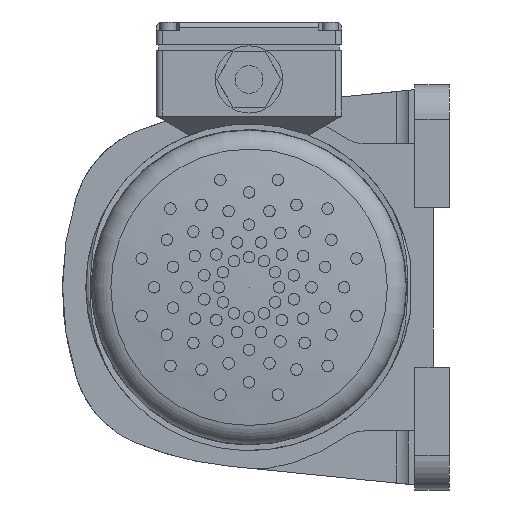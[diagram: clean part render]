
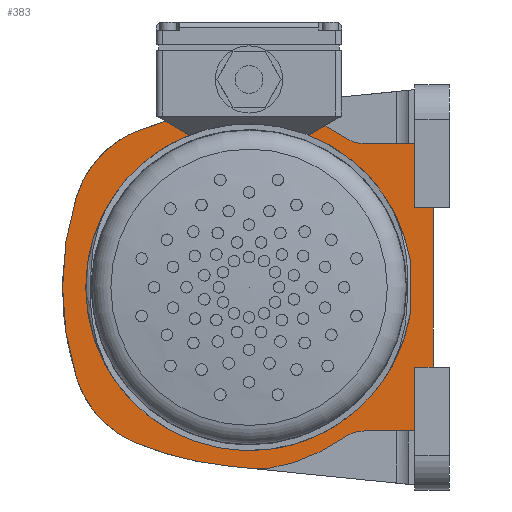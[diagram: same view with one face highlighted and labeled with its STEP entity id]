
A CAD part, left-side view. The second image highlights one B-rep face of the part: STEP entity #383.
In plain terms, the highlighted planar face has unit normal (-1, 0, 0).
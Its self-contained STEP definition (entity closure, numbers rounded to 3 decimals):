
#383 = ADVANCED_FACE( '', ( #1137 ), #1138, .F. );
#1137 = FACE_OUTER_BOUND( '', #2685, .T. );
#1138 = PLANE( '', #2686 );
#2685 = EDGE_LOOP( '', ( #4653, #4654, #4655, #4656, #4657, #4658, #4659, #4660, #4661, #4662, #4663, #4664, #4665, #4666, #4667, #4668, #4669, #4670, #4671, #4672 ) );
#2686 = AXIS2_PLACEMENT_3D( '', #4673, #4674, #4675 );
#4653 = ORIENTED_EDGE( '', *, *, #9284, .F. );
#4654 = ORIENTED_EDGE( '', *, *, #9243, .T. );
#4655 = ORIENTED_EDGE( '', *, *, #9233, .T. );
#4656 = ORIENTED_EDGE( '', *, *, #9285, .F. );
#4657 = ORIENTED_EDGE( '', *, *, #9286, .T. );
#4658 = ORIENTED_EDGE( '', *, *, #9287, .F. );
#4659 = ORIENTED_EDGE( '', *, *, #9288, .F. );
#4660 = ORIENTED_EDGE( '', *, *, #9080, .F. );
#4661 = ORIENTED_EDGE( '', *, *, #9076, .T. );
#4662 = ORIENTED_EDGE( '', *, *, #9074, .T. );
#4663 = ORIENTED_EDGE( '', *, *, #9289, .T. );
#4664 = ORIENTED_EDGE( '', *, *, #9290, .T. );
#4665 = ORIENTED_EDGE( '', *, *, #9291, .T. );
#4666 = ORIENTED_EDGE( '', *, *, #9292, .F. );
#4667 = ORIENTED_EDGE( '', *, *, #9293, .F. );
#4668 = ORIENTED_EDGE( '', *, *, #9294, .F. );
#4669 = ORIENTED_EDGE( '', *, *, #9295, .T. );
#4670 = ORIENTED_EDGE( '', *, *, #9296, .F. );
#4671 = ORIENTED_EDGE( '', *, *, #9271, .T. );
#4672 = ORIENTED_EDGE( '', *, *, #9280, .T. );
#4673 = CARTESIAN_POINT( '', ( -97.5, 8.05, 25.879 ) );
#4674 = DIRECTION( '', ( 1., 0., 0. ) );
#4675 = DIRECTION( '', ( 0., 0., -1. ) );
#9074 = EDGE_CURVE( '', #10586, #10584, #10587, .F. );
#9076 = EDGE_CURVE( '', #10589, #10586, #10590, .F. );
#9080 = EDGE_CURVE( '', #10589, #10596, #10597, .T. );
#9233 = EDGE_CURVE( '', #10868, #10866, #10869, .T. );
#9243 = EDGE_CURVE( '', #10886, #10868, #10887, .T. );
#9271 = EDGE_CURVE( '', #10934, #10932, #10935, .T. );
#9280 = EDGE_CURVE( '', #10932, #10947, #10948, .T. );
#9284 = EDGE_CURVE( '', #10886, #10947, #10952, .T. );
#9285 = EDGE_CURVE( '', #10953, #10866, #10954, .T. );
#9286 = EDGE_CURVE( '', #10953, #10955, #10956, .T. );
#9287 = EDGE_CURVE( '', #10957, #10955, #10958, .T. );
#9288 = EDGE_CURVE( '', #10596, #10957, #10959, .T. );
#9289 = EDGE_CURVE( '', #10584, #10960, #10961, .F. );
#9290 = EDGE_CURVE( '', #10960, #10962, #10963, .F. );
#9291 = EDGE_CURVE( '', #10962, #10964, #10965, .F. );
#9292 = EDGE_CURVE( '', #10966, #10964, #10967, .T. );
#9293 = EDGE_CURVE( '', #10968, #10966, #10969, .T. );
#9294 = EDGE_CURVE( '', #10970, #10968, #10971, .T. );
#9295 = EDGE_CURVE( '', #10970, #10972, #10973, .T. );
#9296 = EDGE_CURVE( '', #10934, #10972, #10974, .T. );
#10584 = VERTEX_POINT( '', #13273 );
#10586 = VERTEX_POINT( '', #13276 );
#10587 = CIRCLE( '', #13277, 45. );
#10589 = VERTEX_POINT( '', #13280 );
#10590 = CIRCLE( '', #13281, 148. );
#10596 = VERTEX_POINT( '', #13289 );
#10597 = LINE( '', #13290, #13291 );
#10866 = VERTEX_POINT( '', #13730 );
#10868 = VERTEX_POINT( '', #13733 );
#10869 = LINE( '', #13734, #13735 );
#10886 = VERTEX_POINT( '', #13759 );
#10887 = LINE( '', #13760, #13761 );
#10932 = VERTEX_POINT( '', #13824 );
#10934 = VERTEX_POINT( '', #13827 );
#10935 = LINE( '', #13828, #13829 );
#10947 = VERTEX_POINT( '', #13849 );
#10948 = LINE( '', #13850, #13851 );
#10952 = LINE( '', #13858, #13859 );
#10953 = VERTEX_POINT( '', #13860 );
#10954 = LINE( '', #13861, #13862 );
#10955 = VERTEX_POINT( '', #13863 );
#10956 = CIRCLE( '', #13864, 15. );
#10957 = VERTEX_POINT( '', #13865 );
#10958 = CIRCLE( '', #13866, 79.395 );
#10959 = CIRCLE( '', #13867, 148.74 );
#10960 = VERTEX_POINT( '', #13868 );
#10961 = CIRCLE( '', #13869, 130. );
#10962 = VERTEX_POINT( '', #13870 );
#10963 = CIRCLE( '', #13871, 45. );
#10964 = VERTEX_POINT( '', #13872 );
#10965 = CIRCLE( '', #13873, 148. );
#10966 = VERTEX_POINT( '', #13874 );
#10967 = LINE( '', #13875, #13876 );
#10968 = VERTEX_POINT( '', #13877 );
#10969 = CIRCLE( '', #13878, 148.74 );
#10970 = VERTEX_POINT( '', #13879 );
#10971 = CIRCLE( '', #13880, 79.395 );
#10972 = VERTEX_POINT( '', #13881 );
#10973 = CIRCLE( '', #13882, 15. );
#10974 = LINE( '', #13883, #13884 );
#13273 = CARTESIAN_POINT( '', ( -97.5, 51.115, 38.671 ) );
#13276 = CARTESIAN_POINT( '', ( -97.5, 26.043, 66.979 ) );
#13277 = AXIS2_PLACEMENT_3D( '', #21545, #21546, #21547 );
#13280 = CARTESIAN_POINT( '', ( -97.5, -15.154, 77.254 ) );
#13281 = AXIS2_PLACEMENT_3D( '', #21549, #21550, #21551 );
#13289 = CARTESIAN_POINT( '', ( -97.5, -25.794, 78.326 ) );
#13290 = CARTESIAN_POINT( '', ( -97.5, 12.944, 74.421 ) );
#13291 = VECTOR( '', #21557, 1000. );
#13730 = CARTESIAN_POINT( '', ( -97.5, -95., 62. ) );
#13733 = CARTESIAN_POINT( '', ( -97.5, -95., 34.5 ) );
#13734 = CARTESIAN_POINT( '', ( -97.5, -95., 25.879 ) );
#13735 = VECTOR( '', #21780, 1000. );
#13759 = CARTESIAN_POINT( '', ( -97.5, -103., 34.5 ) );
#13760 = CARTESIAN_POINT( '', ( -97.5, 8.05, 34.5 ) );
#13761 = VECTOR( '', #21794, 1000. );
#13824 = CARTESIAN_POINT( '', ( -97.5, -95., -34.5 ) );
#13827 = CARTESIAN_POINT( '', ( -97.5, -95., -62. ) );
#13828 = CARTESIAN_POINT( '', ( -97.5, -95., 25.879 ) );
#13829 = VECTOR( '', #21838, 1000. );
#13849 = CARTESIAN_POINT( '', ( -97.5, -103., -34.5 ) );
#13850 = CARTESIAN_POINT( '', ( -97.5, 8.05, -34.5 ) );
#13851 = VECTOR( '', #21847, 1000. );
#13858 = CARTESIAN_POINT( '', ( -97.5, -103., 62. ) );
#13859 = VECTOR( '', #21851, 1000. );
#13860 = CARTESIAN_POINT( '', ( -97.5, -73.195, 62. ) );
#13861 = CARTESIAN_POINT( '', ( -97.5, -73.195, 62. ) );
#13862 = VECTOR( '', #21852, 1000. );
#13863 = CARTESIAN_POINT( '', ( -97.5, -64.518, 64.764 ) );
#13864 = AXIS2_PLACEMENT_3D( '', #21853, #21854, #21855 );
#13865 = CARTESIAN_POINT( '', ( -97.5, -31.209, 78.386 ) );
#13866 = AXIS2_PLACEMENT_3D( '', #21856, #21857, #21858 );
#13867 = AXIS2_PLACEMENT_3D( '', #21859, #21860, #21861 );
#13868 = CARTESIAN_POINT( '', ( -97.5, 51.115, -38.671 ) );
#13869 = AXIS2_PLACEMENT_3D( '', #21862, #21863, #21864 );
#13870 = CARTESIAN_POINT( '', ( -97.5, 26.043, -66.979 ) );
#13871 = AXIS2_PLACEMENT_3D( '', #21865, #21866, #21867 );
#13872 = CARTESIAN_POINT( '', ( -97.5, -15.154, -77.254 ) );
#13873 = AXIS2_PLACEMENT_3D( '', #21868, #21869, #21870 );
#13874 = CARTESIAN_POINT( '', ( -97.5, -25.794, -78.326 ) );
#13875 = CARTESIAN_POINT( '', ( -97.5, 18.11, -73.9 ) );
#13876 = VECTOR( '', #21871, 1000. );
#13877 = CARTESIAN_POINT( '', ( -97.5, -31.209, -78.386 ) );
#13878 = AXIS2_PLACEMENT_3D( '', #21872, #21873, #21874 );
#13879 = CARTESIAN_POINT( '', ( -97.5, -64.518, -64.764 ) );
#13880 = AXIS2_PLACEMENT_3D( '', #21875, #21876, #21877 );
#13881 = CARTESIAN_POINT( '', ( -97.5, -73.195, -62. ) );
#13882 = AXIS2_PLACEMENT_3D( '', #21878, #21879, #21880 );
#13883 = CARTESIAN_POINT( '', ( -97.5, -103., -62. ) );
#13884 = VECTOR( '', #21881, 1000. );
#21545 = CARTESIAN_POINT( '', ( -97.5, 8.01, 25.75 ) );
#21546 = DIRECTION( '', ( 1., 0., 0. ) );
#21547 = DIRECTION( '', ( 0., 0., -1. ) );
#21549 = CARTESIAN_POINT( '', ( -97.5, -30., -70. ) );
#21550 = DIRECTION( '', ( 1., 0., 0. ) );
#21551 = DIRECTION( '', ( 0., 0., -1. ) );
#21557 = DIRECTION( '', ( 0., -0.995, 0.1 ) );
#21780 = DIRECTION( '', ( 0., 0., 1. ) );
#21794 = DIRECTION( '', ( 0., 1., 0. ) );
#21838 = DIRECTION( '', ( 0., 0., 1. ) );
#21847 = DIRECTION( '', ( 0., -1., 0. ) );
#21851 = DIRECTION( '', ( 0., 0., -1. ) );
#21852 = DIRECTION( '', ( 0., -1., 0. ) );
#21853 = CARTESIAN_POINT( '', ( -97.5, -73.195, 77. ) );
#21854 = DIRECTION( '', ( 1., 0., 0. ) );
#21855 = DIRECTION( '', ( 0., 0., -1. ) );
#21856 = CARTESIAN_POINT( '', ( -97.5, -18.593, 0. ) );
#21857 = DIRECTION( '', ( 1., 0., 0. ) );
#21858 = DIRECTION( '', ( 0., 0., -1. ) );
#21859 = CARTESIAN_POINT( '', ( -97.5, -30.15, -70.35 ) );
#21860 = DIRECTION( '', ( 1., 0., 0. ) );
#21861 = DIRECTION( '', ( 0., 0., -1. ) );
#21862 = CARTESIAN_POINT( '', ( -97.5, -73., 0. ) );
#21863 = DIRECTION( '', ( 1., 0., 0. ) );
#21864 = DIRECTION( '', ( 0., 0., -1. ) );
#21865 = CARTESIAN_POINT( '', ( -97.5, 8.01, -25.75 ) );
#21866 = DIRECTION( '', ( 1., 0., 0. ) );
#21867 = DIRECTION( '', ( 0., 0., -1. ) );
#21868 = CARTESIAN_POINT( '', ( -97.5, -30., 70. ) );
#21869 = DIRECTION( '', ( 1., 0., 0. ) );
#21870 = DIRECTION( '', ( 0., 0., -1. ) );
#21871 = DIRECTION( '', ( 0., 0.995, 0.1 ) );
#21872 = CARTESIAN_POINT( '', ( -97.5, -30.15, 70.35 ) );
#21873 = DIRECTION( '', ( 1., 0., 0. ) );
#21874 = DIRECTION( '', ( 0., 0., -1. ) );
#21875 = CARTESIAN_POINT( '', ( -97.5, -18.592, 0. ) );
#21876 = DIRECTION( '', ( 1., 0., 0. ) );
#21877 = DIRECTION( '', ( 0., 0., -1. ) );
#21878 = CARTESIAN_POINT( '', ( -97.5, -73.195, -77. ) );
#21879 = DIRECTION( '', ( 1., 0., 0. ) );
#21880 = DIRECTION( '', ( 0., 0., -1. ) );
#21881 = DIRECTION( '', ( 0., 1., 0. ) );
